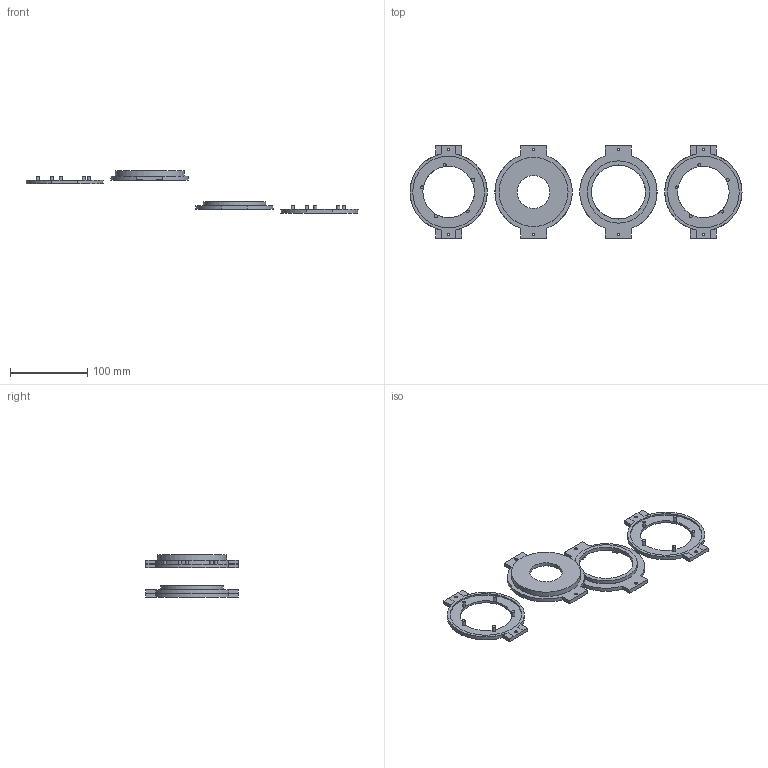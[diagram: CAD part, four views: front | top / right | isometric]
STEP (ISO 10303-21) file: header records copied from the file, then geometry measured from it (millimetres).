
FILE_DESCRIPTION(/* description */ (''),/* implementation_level */ '2;1');
FILE_NAME(/* name */ 'BallBearing ALL.step',/* time_stamp */ '2024-08-31T16:19:08-04:00',/* author */ (''),/* organization */ (''),/* preprocessor_version */ 'ST-DEVELOPER v20',/* originating_system */ 'Autodesk Translation Framework v13.14.0.145',/* authorisation */ '');
FILE_SCHEMA (('AUTOMOTIVE_DESIGN { 1 0 10303 214 3 1 1 }'));
Length unit declared in the file: millimetre
Products named in the file (1): Ball Bearing Case
Bounding box: 430 x 120 x 55.07 mm (x, y, z)
Volume: 101853.7 mm3; surface area: 63836.2 mm2
Topology: 4 solids, 4 shells, 236 faces, 602 edges, 388 vertices
Faces by surface type: plane 133, cylinder 103
Full cylindrical faces by diameter (mm): 3.471 x8, 3.9 x10, 42.426 x1, 66.65 x2, 69.971 x1, 78.864 x1, 80.636 x1, 82.462 x1, 89.443 x1, 92.85 x4
Entity records: 7336 total; most frequent: DIRECTION 1408, CARTESIAN_POINT 1227, ORIENTED_EDGE 1204, EDGE_CURVE 602, AXIS2_PLACEMENT_3D 569, VERTEX_POINT 388, CIRCLE 332, EDGE_LOOP 274
